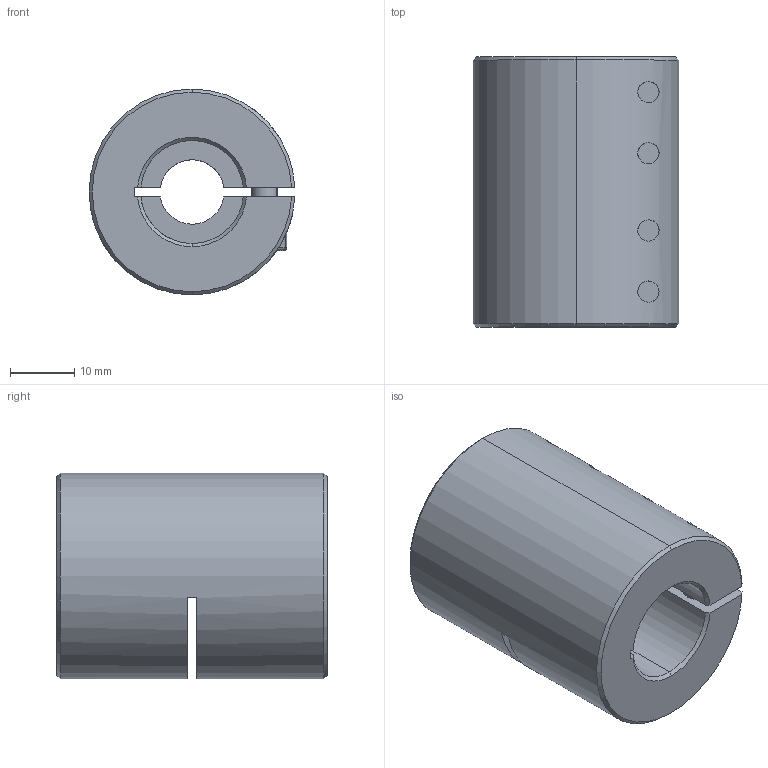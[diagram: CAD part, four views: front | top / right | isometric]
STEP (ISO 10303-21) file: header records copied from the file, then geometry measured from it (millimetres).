
FILE_DESCRIPTION (( 'STEP AP203' ), '1' );
FILE_NAME ('LL-B-D32L42-10-16.STEP', '2021-11-05T07:48:36', ( '' ), ( '' ), 'SwSTEP 2.0', 'SolidWorks 2018', '' );
FILE_SCHEMA (( 'CONFIG_CONTROL_DESIGN' ));
Length unit declared in the file: millimetre
Products named in the file (1): LL-B-D32L42-10-16
Bounding box: 31.98 x 42 x 32 mm (x, y, z)
Volume: 25621.2 mm3; surface area: 10330.1 mm2
Topology: 1 solids, 1 shells, 192 faces, 489 edges, 307 vertices
Faces by surface type: plane 88, cylinder 76, cone 20, torus 8
Entity records: 6343 total; most frequent: CARTESIAN_POINT 1553, DIRECTION 1032, ORIENTED_EDGE 962, EDGE_CURVE 481, AXIS2_PLACEMENT_3D 402, VERTEX_POINT 307, LINE 228, VECTOR 228
